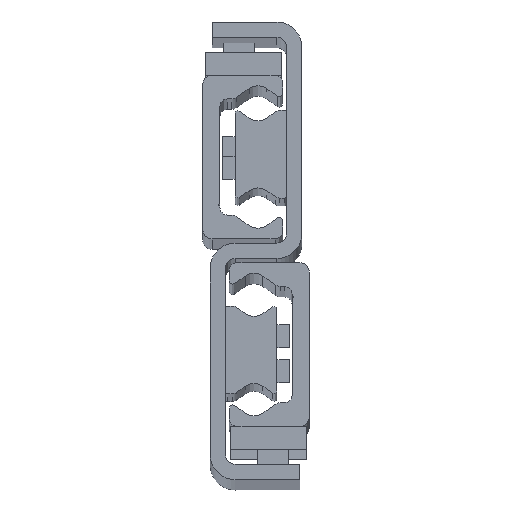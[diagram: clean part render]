
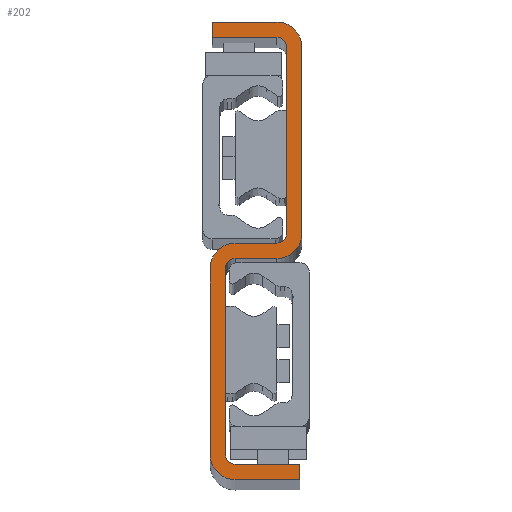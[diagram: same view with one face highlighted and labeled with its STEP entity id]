
A CAD part, top view. The second image highlights one B-rep face of the part: STEP entity #202.
In plain terms, the highlighted planar face has unit normal (0, 0, 1).
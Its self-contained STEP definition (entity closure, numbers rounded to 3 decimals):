
#202=ADVANCED_FACE('',(#721),#722,.T.);
#721=FACE_OUTER_BOUND('',#1571,.T.);
#722=PLANE('',#1572);
#1571=EDGE_LOOP('',(#3117,#3118,#3119,#3120,#3121,#3122,#3123,#3124,#3125,#3126,#3127,#3128,#3129,#3130,#3131,#3132,#3133,#3134,#3135,#3136));
#1572=AXIS2_PLACEMENT_3D('',#3137,#3138,#3139);
#3117=ORIENTED_EDGE('',*,*,#5493,.F.);
#3118=ORIENTED_EDGE('',*,*,#5551,.F.);
#3119=ORIENTED_EDGE('',*,*,#5548,.F.);
#3120=ORIENTED_EDGE('',*,*,#5545,.F.);
#3121=ORIENTED_EDGE('',*,*,#5542,.F.);
#3122=ORIENTED_EDGE('',*,*,#5539,.F.);
#3123=ORIENTED_EDGE('',*,*,#5536,.F.);
#3124=ORIENTED_EDGE('',*,*,#5533,.F.);
#3125=ORIENTED_EDGE('',*,*,#5530,.F.);
#3126=ORIENTED_EDGE('',*,*,#5527,.F.);
#3127=ORIENTED_EDGE('',*,*,#5524,.F.);
#3128=ORIENTED_EDGE('',*,*,#5521,.F.);
#3129=ORIENTED_EDGE('',*,*,#5518,.F.);
#3130=ORIENTED_EDGE('',*,*,#5515,.F.);
#3131=ORIENTED_EDGE('',*,*,#5512,.F.);
#3132=ORIENTED_EDGE('',*,*,#5509,.F.);
#3133=ORIENTED_EDGE('',*,*,#5506,.F.);
#3134=ORIENTED_EDGE('',*,*,#5503,.F.);
#3135=ORIENTED_EDGE('',*,*,#5500,.F.);
#3136=ORIENTED_EDGE('',*,*,#5497,.F.);
#3137=CARTESIAN_POINT('',(-14.,26.,2378.0));
#3138=DIRECTION('',(0.0,0.0,1.0));
#3139=DIRECTION('',(1.0,0.0,0.0));
#5493=EDGE_CURVE('',#6651,#6652,#6653,.T.);
#5497=EDGE_CURVE('',#6652,#6659,#6660,.T.);
#5500=EDGE_CURVE('',#6659,#6664,#6665,.T.);
#5503=EDGE_CURVE('',#6664,#6669,#6670,.T.);
#5506=EDGE_CURVE('',#6669,#6674,#6675,.T.);
#5509=EDGE_CURVE('',#6674,#6679,#6680,.T.);
#5512=EDGE_CURVE('',#6679,#6684,#6685,.T.);
#5515=EDGE_CURVE('',#6684,#6689,#6690,.T.);
#5518=EDGE_CURVE('',#6689,#6694,#6695,.T.);
#5521=EDGE_CURVE('',#6694,#6699,#6700,.T.);
#5524=EDGE_CURVE('',#6699,#6704,#6705,.T.);
#5527=EDGE_CURVE('',#6704,#6709,#6710,.T.);
#5530=EDGE_CURVE('',#6709,#6714,#6715,.T.);
#5533=EDGE_CURVE('',#6714,#6719,#6720,.T.);
#5536=EDGE_CURVE('',#6719,#6724,#6725,.T.);
#5539=EDGE_CURVE('',#6724,#6729,#6730,.T.);
#5542=EDGE_CURVE('',#6729,#6734,#6735,.T.);
#5545=EDGE_CURVE('',#6734,#6739,#6740,.T.);
#5548=EDGE_CURVE('',#6739,#6744,#6745,.T.);
#5551=EDGE_CURVE('',#6744,#6651,#6749,.T.);
#6651=VERTEX_POINT('',#8453);
#6652=VERTEX_POINT('',#8454);
#6653=LINE('',#8455,#8456);
#6659=VERTEX_POINT('',#8465);
#6660=CIRCLE('',#8466,2.5);
#6664=VERTEX_POINT('',#8471);
#6665=LINE('',#8472,#8473);
#6669=VERTEX_POINT('',#8479);
#6670=CIRCLE('',#8480,2.5);
#6674=VERTEX_POINT('',#8485);
#6675=LINE('',#8486,#8487);
#6679=VERTEX_POINT('',#8493);
#6680=LINE('',#8494,#8495);
#6684=VERTEX_POINT('',#8501);
#6685=LINE('',#8502,#8503);
#6689=VERTEX_POINT('',#8509);
#6690=CIRCLE('',#8510,6.5);
#6694=VERTEX_POINT('',#8515);
#6695=LINE('',#8516,#8517);
#6699=VERTEX_POINT('',#8523);
#6700=CIRCLE('',#8524,6.5);
#6704=VERTEX_POINT('',#8529);
#6705=LINE('',#8530,#8531);
#6709=VERTEX_POINT('',#8537);
#6710=CIRCLE('',#8538,2.5);
#6714=VERTEX_POINT('',#8543);
#6715=LINE('',#8544,#8545);
#6719=VERTEX_POINT('',#8551);
#6720=CIRCLE('',#8552,2.5);
#6724=VERTEX_POINT('',#8557);
#6725=LINE('',#8558,#8559);
#6729=VERTEX_POINT('',#8565);
#6730=LINE('',#8566,#8567);
#6734=VERTEX_POINT('',#8573);
#6735=LINE('',#8574,#8575);
#6739=VERTEX_POINT('',#8581);
#6740=CIRCLE('',#8582,6.5);
#6744=VERTEX_POINT('',#8587);
#6745=LINE('',#8588,#8589);
#6749=CIRCLE('',#8595,6.5);
#8453=CARTESIAN_POINT('',(-8.5,24.,2378.0));
#8454=CARTESIAN_POINT('',(-19.5,24.,2378.0));
#8455=CARTESIAN_POINT('',(-8.5,24.,2378.0));
#8456=VECTOR('',#10421,1.0);
#8465=CARTESIAN_POINT('',(-22.,21.5,2378.0));
#8466=AXIS2_PLACEMENT_3D('',#10425,#10426,#10427);
#8471=CARTESIAN_POINT('',(-22.,-27.5,2378.0));
#8472=CARTESIAN_POINT('',(-22.,-27.5,2378.0));
#8473=VECTOR('',#10432,1.0);
#8479=CARTESIAN_POINT('',(-19.5,-30.,2378.0));
#8480=AXIS2_PLACEMENT_3D('',#10435,#10436,#10437);
#8485=CARTESIAN_POINT('',(-2.5,-30.,2378.0));
#8486=CARTESIAN_POINT('',(-19.5,-30.,2378.0));
#8487=VECTOR('',#10442,1.0);
#8493=CARTESIAN_POINT('',(-2.5,-34.,2378.0));
#8494=CARTESIAN_POINT('',(-2.5,-34.,2378.0));
#8495=VECTOR('',#10445,1.0);
#8501=CARTESIAN_POINT('',(-19.5,-34.,2378.0));
#8502=CARTESIAN_POINT('',(-19.5,-34.,2378.0));
#8503=VECTOR('',#10448,1.0);
#8509=CARTESIAN_POINT('',(-26.,-27.5,2378.0));
#8510=AXIS2_PLACEMENT_3D('',#10451,#10452,#10453);
#8515=CARTESIAN_POINT('',(-26.,21.5,2378.0));
#8516=CARTESIAN_POINT('',(-26.,21.5,2378.0));
#8517=VECTOR('',#10458,1.0);
#8523=CARTESIAN_POINT('',(-19.5,28.,2378.0));
#8524=AXIS2_PLACEMENT_3D('',#10461,#10462,#10463);
#8529=CARTESIAN_POINT('',(-8.5,28.,2378.0));
#8530=CARTESIAN_POINT('',(-8.5,28.,2378.0));
#8531=VECTOR('',#10468,1.0);
#8537=CARTESIAN_POINT('',(-6.,30.5,2378.0));
#8538=AXIS2_PLACEMENT_3D('',#10471,#10472,#10473);
#8543=CARTESIAN_POINT('',(-6.,79.5,2378.0));
#8544=CARTESIAN_POINT('',(-6.,79.5,2378.0));
#8545=VECTOR('',#10478,1.0);
#8551=CARTESIAN_POINT('',(-8.5,82.,2378.0));
#8552=AXIS2_PLACEMENT_3D('',#10481,#10482,#10483);
#8557=CARTESIAN_POINT('',(-25.5,82.,2378.0));
#8558=CARTESIAN_POINT('',(-25.5,82.,2378.0));
#8559=VECTOR('',#10488,1.0);
#8565=CARTESIAN_POINT('',(-25.5,86.,2378.0));
#8566=CARTESIAN_POINT('',(-25.5,86.,2378.0));
#8567=VECTOR('',#10491,1.0);
#8573=CARTESIAN_POINT('',(-8.5,86.,2378.0));
#8574=CARTESIAN_POINT('',(-25.5,86.,2378.0));
#8575=VECTOR('',#10494,1.0);
#8581=CARTESIAN_POINT('',(-2.,79.5,2378.0));
#8582=AXIS2_PLACEMENT_3D('',#10497,#10498,#10499);
#8587=CARTESIAN_POINT('',(-2.,30.5,2378.0));
#8588=CARTESIAN_POINT('',(-2.,79.5,2378.0));
#8589=VECTOR('',#10504,1.0);
#8595=AXIS2_PLACEMENT_3D('',#10507,#10508,#10509);
#10421=DIRECTION('',(-1.0,0.,0.0));
#10425=CARTESIAN_POINT('',(-19.5,21.5,2378.0));
#10426=DIRECTION('',(0.0,0.0,1.0));
#10427=DIRECTION('',(1.0,0.0,0.0));
#10432=DIRECTION('',(-0.0,-1.0,-0.0));
#10435=CARTESIAN_POINT('',(-19.5,-27.5,2378.0));
#10436=DIRECTION('',(0.0,0.0,1.0));
#10437=DIRECTION('',(1.0,0.0,0.0));
#10442=DIRECTION('',(1.,0.,0.0));
#10445=DIRECTION('',(-0.0,-1.0,-0.0));
#10448=DIRECTION('',(-1.,0.,-0.0));
#10451=CARTESIAN_POINT('',(-19.5,-27.5,2378.0));
#10452=DIRECTION('',(0.0,0.0,-1.0));
#10453=DIRECTION('',(1.0,0.0,0.0));
#10458=DIRECTION('',(0.0,1.0,0.0));
#10461=CARTESIAN_POINT('',(-19.5,21.5,2378.0));
#10462=DIRECTION('',(0.0,0.0,-1.0));
#10463=DIRECTION('',(1.0,0.0,0.0));
#10468=DIRECTION('',(1.0,0.,0.0));
#10471=CARTESIAN_POINT('',(-8.5,30.5,2378.0));
#10472=DIRECTION('',(0.0,0.0,1.0));
#10473=DIRECTION('',(1.0,0.0,0.0));
#10478=DIRECTION('',(0.0,1.0,0.0));
#10481=CARTESIAN_POINT('',(-8.5,79.5,2378.0));
#10482=DIRECTION('',(0.0,0.0,1.0));
#10483=DIRECTION('',(1.0,0.0,0.0));
#10488=DIRECTION('',(-1.,0.,0.0));
#10491=DIRECTION('',(0.0,1.0,0.0));
#10494=DIRECTION('',(1.,0.,0.0));
#10497=CARTESIAN_POINT('',(-8.5,79.5,2378.0));
#10498=DIRECTION('',(0.0,0.0,-1.0));
#10499=DIRECTION('',(1.0,0.0,0.0));
#10504=DIRECTION('',(0.,-1.0,0.0));
#10507=CARTESIAN_POINT('',(-8.5,30.5,2378.0));
#10508=DIRECTION('',(0.0,0.0,-1.0));
#10509=DIRECTION('',(1.0,0.0,0.0));
